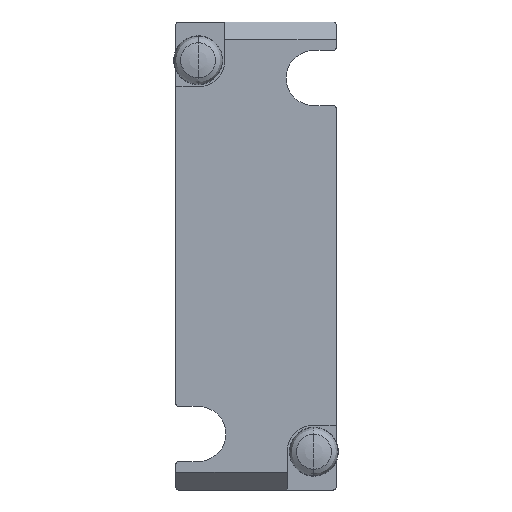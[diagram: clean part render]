
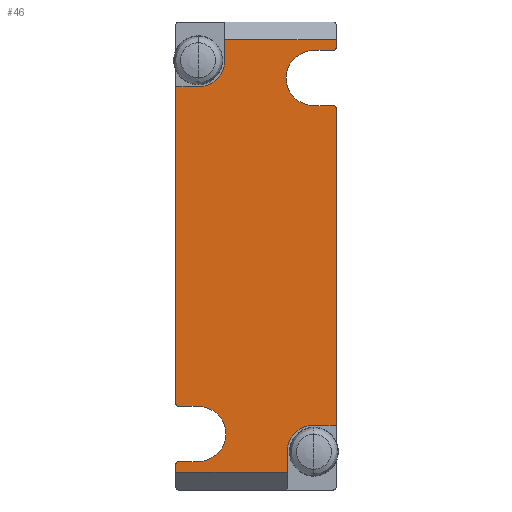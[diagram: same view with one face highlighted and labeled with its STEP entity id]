
A CAD part, front view. The second image highlights one B-rep face of the part: STEP entity #46.
In plain terms, the highlighted planar face has unit normal (0, -1, 0).
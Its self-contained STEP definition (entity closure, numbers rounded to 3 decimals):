
#46=ADVANCED_FACE('',(#147),#146,.F.);
#146=PLANE('',#579);
#147=FACE_OUTER_BOUND('',#580,.T.);
#576=CARTESIAN_POINT('',(-10.8,-5.,-29.16));
#577=DIRECTION('',(0.,1.,0.));
#578=DIRECTION('',(0.,0.,1.));
#579=AXIS2_PLACEMENT_3D('',#576,#577,#578);
#580=EDGE_LOOP('',(#929,#930,#931,#932,#933,#934,#935,#936,#937,#938,#939,#940,#941,#942,#943,#944,#945,#946,#947,#948,#949,#950));
#929=ORIENTED_EDGE('',*,*,#1134,.T.);
#930=ORIENTED_EDGE('',*,*,#1163,.T.);
#931=ORIENTED_EDGE('',*,*,#1164,.F.);
#932=ORIENTED_EDGE('',*,*,#1165,.T.);
#933=ORIENTED_EDGE('',*,*,#1141,.F.);
#934=ORIENTED_EDGE('',*,*,#1130,.T.);
#935=ORIENTED_EDGE('',*,*,#1166,.F.);
#936=ORIENTED_EDGE('',*,*,#1167,.F.);
#937=ORIENTED_EDGE('',*,*,#1168,.F.);
#938=ORIENTED_EDGE('',*,*,#1169,.T.);
#939=ORIENTED_EDGE('',*,*,#1170,.F.);
#940=ORIENTED_EDGE('',*,*,#1171,.T.);
#941=ORIENTED_EDGE('',*,*,#1172,.F.);
#942=ORIENTED_EDGE('',*,*,#1173,.F.);
#943=ORIENTED_EDGE('',*,*,#1174,.F.);
#944=ORIENTED_EDGE('',*,*,#1175,.F.);
#945=ORIENTED_EDGE('',*,*,#1176,.T.);
#946=ORIENTED_EDGE('',*,*,#1177,.F.);
#947=ORIENTED_EDGE('',*,*,#1178,.F.);
#948=ORIENTED_EDGE('',*,*,#1179,.F.);
#949=ORIENTED_EDGE('',*,*,#1180,.T.);
#950=ORIENTED_EDGE('',*,*,#1181,.F.);
#1130=EDGE_CURVE('',#1287,#1280,#1288,.T.);
#1134=EDGE_CURVE('',#1315,#1308,#1316,.T.);
#1141=EDGE_CURVE('',#1287,#1363,#1364,.T.);
#1163=EDGE_CURVE('',#1308,#1513,#1514,.T.);
#1164=EDGE_CURVE('',#1520,#1513,#1521,.T.);
#1165=EDGE_CURVE('',#1520,#1363,#1527,.T.);
#1166=EDGE_CURVE('',#1533,#1280,#1534,.T.);
#1167=EDGE_CURVE('',#1540,#1533,#1541,.T.);
#1168=EDGE_CURVE('',#1547,#1540,#1548,.T.);
#1169=EDGE_CURVE('',#1547,#1554,#1555,.T.);
#1170=EDGE_CURVE('',#1561,#1554,#1562,.T.);
#1171=EDGE_CURVE('',#1561,#1568,#1569,.T.);
#1172=EDGE_CURVE('',#1575,#1568,#1576,.T.);
#1173=EDGE_CURVE('',#1582,#1575,#1583,.T.);
#1174=EDGE_CURVE('',#1589,#1582,#1590,.T.);
#1175=EDGE_CURVE('',#1596,#1589,#1597,.T.);
#1176=EDGE_CURVE('',#1596,#1603,#1604,.T.);
#1177=EDGE_CURVE('',#1610,#1603,#1611,.T.);
#1178=EDGE_CURVE('',#1617,#1610,#1618,.T.);
#1179=EDGE_CURVE('',#1624,#1617,#1625,.T.);
#1180=EDGE_CURVE('',#1624,#1631,#1632,.T.);
#1181=EDGE_CURVE('',#1315,#1631,#1638,.T.);
#1280=VERTEX_POINT('',#2064);
#1287=VERTEX_POINT('',#2068);
#1288=CIRCLE('',#2072,0.3);
#1308=VERTEX_POINT('',#2081);
#1315=VERTEX_POINT('',#2085);
#1316=LINE('',#2086,#2087);
#1363=VERTEX_POINT('',#2116);
#1364=LINE('',#2117,#2118);
#1513=VERTEX_POINT('',#2207);
#1514=LINE('',#2208,#2209);
#1520=VERTEX_POINT('',#2211);
#1521=CIRCLE('',#2215,3.);
#1527=LINE('',#2216,#2217);
#1533=VERTEX_POINT('',#2219);
#1534=LINE('',#2220,#2221);
#1540=VERTEX_POINT('',#2223);
#1541=CIRCLE('',#2227,3.1);
#1547=VERTEX_POINT('',#2228);
#1548=LINE('',#2229,#2230);
#1554=VERTEX_POINT('',#2232);
#1555=CIRCLE('',#2236,0.3);
#1561=VERTEX_POINT('',#2237);
#1562=LINE('',#2238,#2239);
#1568=VERTEX_POINT('',#2241);
#1569=LINE('',#2242,#2243);
#1575=VERTEX_POINT('',#2245);
#1576=LINE('',#2246,#2247);
#1582=VERTEX_POINT('',#2249);
#1583=CIRCLE('',#2253,3.);
#1589=VERTEX_POINT('',#2254);
#1590=LINE('',#2255,#2256);
#1596=VERTEX_POINT('',#2258);
#1597=LINE('',#2259,#2260);
#1603=VERTEX_POINT('',#2262);
#1604=CIRCLE('',#2266,0.3);
#1610=VERTEX_POINT('',#2267);
#1611=LINE('',#2268,#2269);
#1617=VERTEX_POINT('',#2271);
#1618=CIRCLE('',#2275,3.1);
#1624=VERTEX_POINT('',#2276);
#1625=LINE('',#2277,#2278);
#1631=VERTEX_POINT('',#2280);
#1632=CIRCLE('',#2284,0.3);
#1638=LINE('',#2285,#2286);
#2064=CARTESIAN_POINT('',(-8.7,-5.,-16.9));
#2068=CARTESIAN_POINT('',(-9.,-5.,-16.6));
#2069=CARTESIAN_POINT('',(-8.7,-5.,-16.6));
#2070=DIRECTION('',(0.,-1.,0.));
#2071=DIRECTION('',(0.,0.,-1.));
#2072=AXIS2_PLACEMENT_3D('',#2069,#2070,#2071);
#2081=CARTESIAN_POINT('',(-3.5,-5.,24.3));
#2085=CARTESIAN_POINT('',(9.,-5.,24.3));
#2086=CARTESIAN_POINT('',(9.,-5.,24.3));
#2087=VECTOR('',#2088,12.5);
#2088=DIRECTION('',(-1.,0.,0.));
#2116=CARTESIAN_POINT('',(-9.,-5.,19.));
#2117=CARTESIAN_POINT('',(-9.,-5.,-16.6));
#2118=VECTOR('',#2119,35.6);
#2119=DIRECTION('',(0.,0.,1.));
#2207=CARTESIAN_POINT('',(-3.5,-5.,22.));
#2208=CARTESIAN_POINT('',(-3.5,-5.,24.3));
#2209=VECTOR('',#2210,2.3);
#2210=DIRECTION('',(0.,0.,-1.));
#2211=CARTESIAN_POINT('',(-6.5,-5.,19.));
#2212=CARTESIAN_POINT('',(-6.5,-5.,22.));
#2213=DIRECTION('',(0.,-1.,0.));
#2214=DIRECTION('',(0.,0.,-1.));
#2215=AXIS2_PLACEMENT_3D('',#2212,#2213,#2214);
#2216=CARTESIAN_POINT('',(-6.5,-5.,19.));
#2217=VECTOR('',#2218,2.5);
#2218=DIRECTION('',(-1.,0.,0.));
#2219=CARTESIAN_POINT('',(-6.5,-5.,-16.9));
#2220=CARTESIAN_POINT('',(-6.5,-5.,-16.9));
#2221=VECTOR('',#2222,2.2);
#2222=DIRECTION('',(-1.,0.,0.));
#2223=CARTESIAN_POINT('',(-6.5,-5.,-23.1));
#2224=CARTESIAN_POINT('',(-6.5,-5.,-20.));
#2225=DIRECTION('',(0.,-1.,0.));
#2226=DIRECTION('',(0.,0.,-1.));
#2227=AXIS2_PLACEMENT_3D('',#2224,#2225,#2226);
#2228=CARTESIAN_POINT('',(-8.7,-5.,-23.1));
#2229=CARTESIAN_POINT('',(-8.7,-5.,-23.1));
#2230=VECTOR('',#2231,2.2);
#2231=DIRECTION('',(1.,0.,0.));
#2232=CARTESIAN_POINT('',(-9.,-5.,-23.4));
#2233=CARTESIAN_POINT('',(-8.7,-5.,-23.4));
#2234=DIRECTION('',(0.,-1.,0.));
#2235=DIRECTION('',(0.,0.,-1.));
#2236=AXIS2_PLACEMENT_3D('',#2233,#2234,#2235);
#2237=CARTESIAN_POINT('',(-9.,-5.,-24.3));
#2238=CARTESIAN_POINT('',(-9.,-5.,-24.3));
#2239=VECTOR('',#2240,0.9);
#2240=DIRECTION('',(0.,0.,1.));
#2241=CARTESIAN_POINT('',(3.5,-5.,-24.3));
#2242=CARTESIAN_POINT('',(-9.,-5.,-24.3));
#2243=VECTOR('',#2244,12.5);
#2244=DIRECTION('',(1.,0.,0.));
#2245=CARTESIAN_POINT('',(3.5,-5.,-22.));
#2246=CARTESIAN_POINT('',(3.5,-5.,-22.));
#2247=VECTOR('',#2248,2.3);
#2248=DIRECTION('',(0.,0.,-1.));
#2249=CARTESIAN_POINT('',(6.5,-5.,-19.));
#2250=CARTESIAN_POINT('',(6.5,-5.,-22.));
#2251=DIRECTION('',(0.,-1.,0.));
#2252=DIRECTION('',(0.,0.,-1.));
#2253=AXIS2_PLACEMENT_3D('',#2250,#2251,#2252);
#2254=CARTESIAN_POINT('',(9.,-5.,-19.));
#2255=CARTESIAN_POINT('',(9.,-5.,-19.));
#2256=VECTOR('',#2257,2.5);
#2257=DIRECTION('',(-1.,0.,0.));
#2258=CARTESIAN_POINT('',(9.,-5.,16.6));
#2259=CARTESIAN_POINT('',(9.,-5.,16.6));
#2260=VECTOR('',#2261,35.6);
#2261=DIRECTION('',(0.,0.,-1.));
#2262=CARTESIAN_POINT('',(8.7,-5.,16.9));
#2263=CARTESIAN_POINT('',(8.7,-5.,16.6));
#2264=DIRECTION('',(0.,-1.,0.));
#2265=DIRECTION('',(0.,0.,-1.));
#2266=AXIS2_PLACEMENT_3D('',#2263,#2264,#2265);
#2267=CARTESIAN_POINT('',(6.5,-5.,16.9));
#2268=CARTESIAN_POINT('',(6.5,-5.,16.9));
#2269=VECTOR('',#2270,2.2);
#2270=DIRECTION('',(1.,0.,0.));
#2271=CARTESIAN_POINT('',(6.5,-5.,23.1));
#2272=CARTESIAN_POINT('',(6.5,-5.,20.));
#2273=DIRECTION('',(0.,-1.,0.));
#2274=DIRECTION('',(0.,0.,-1.));
#2275=AXIS2_PLACEMENT_3D('',#2272,#2273,#2274);
#2276=CARTESIAN_POINT('',(8.7,-5.,23.1));
#2277=CARTESIAN_POINT('',(8.7,-5.,23.1));
#2278=VECTOR('',#2279,2.2);
#2279=DIRECTION('',(-1.,0.,0.));
#2280=CARTESIAN_POINT('',(9.,-5.,23.4));
#2281=CARTESIAN_POINT('',(8.7,-5.,23.4));
#2282=DIRECTION('',(0.,-1.,0.));
#2283=DIRECTION('',(0.,0.,-1.));
#2284=AXIS2_PLACEMENT_3D('',#2281,#2282,#2283);
#2285=CARTESIAN_POINT('',(9.,-5.,24.3));
#2286=VECTOR('',#2287,0.9);
#2287=DIRECTION('',(0.,0.,-1.));
